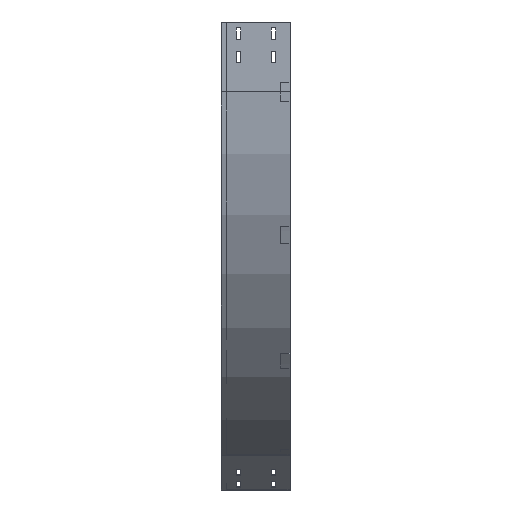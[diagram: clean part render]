
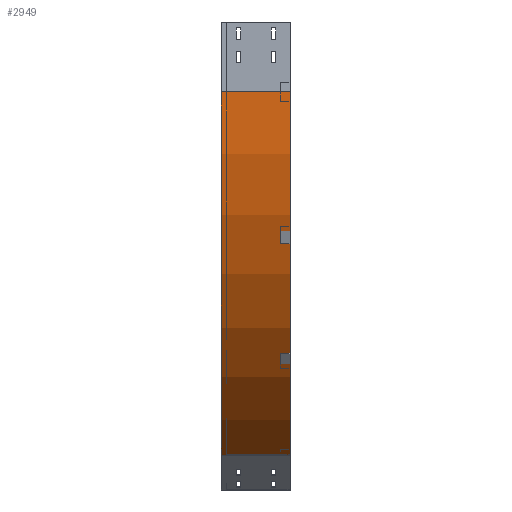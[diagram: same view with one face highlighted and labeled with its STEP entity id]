
A CAD part, left-side view. The second image highlights one B-rep face of the part: STEP entity #2949.
In plain terms, the highlighted cylindrical face has radius 900 mm (diameter 1800 mm), a partial arc.
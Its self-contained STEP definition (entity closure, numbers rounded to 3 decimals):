
#83 = VERTEX_POINT ( 'NONE', #3060 ) ;
#157 = CIRCLE ( 'NONE', #2994, 900. ) ;
#167 = EDGE_CURVE ( 'NONE', #2838, #83, #1378, .T. ) ;
#358 = FACE_OUTER_BOUND ( 'NONE', #584, .T. ) ;
#584 = EDGE_LOOP ( 'NONE', ( #3277, #2231, #1698, #2162 ) ) ;
#649 = CYLINDRICAL_SURFACE ( 'NONE', #1088, 900. ) ;
#704 = CARTESIAN_POINT ( 'NONE',  ( 0., 150., -150. ) ) ;
#1087 = DIRECTION ( 'NONE',  ( 0., -1., 0. ) ) ;
#1088 = AXIS2_PLACEMENT_3D ( 'NONE', #2709, #1240, #3616 ) ;
#1151 = AXIS2_PLACEMENT_3D ( 'NONE', #1673, #1381, #2226 ) ;
#1152 = EDGE_CURVE ( 'NONE', #2594, #1293, #1590, .T. ) ;
#1229 = EDGE_CURVE ( 'NONE', #83, #1293, #3456, .T. ) ;
#1240 = DIRECTION ( 'NONE',  ( 0., -1., 0. ) ) ;
#1293 = VERTEX_POINT ( 'NONE', #2603 ) ;
#1378 = LINE ( 'NONE', #2599, #1835 ) ;
#1381 = DIRECTION ( 'NONE',  ( 0., -1., 0. ) ) ;
#1590 = LINE ( 'NONE', #2182, #2818 ) ;
#1673 = CARTESIAN_POINT ( 'NONE',  ( 900., 0., -150. ) ) ;
#1698 = ORIENTED_EDGE ( 'NONE', *, *, #2645, .T. ) ;
#1835 = VECTOR ( 'NONE', #1087, 1000. ) ;
#2162 = ORIENTED_EDGE ( 'NONE', *, *, #1152, .T. ) ;
#2182 = CARTESIAN_POINT ( 'NONE',  ( 450., 0., -929.423 ) ) ;
#2226 = DIRECTION ( 'NONE',  ( -1., 0., 0. ) ) ;
#2231 = ORIENTED_EDGE ( 'NONE', *, *, #167, .F. ) ;
#2412 = DIRECTION ( 'NONE',  ( 0., -1., 0. ) ) ;
#2594 = VERTEX_POINT ( 'NONE', #3301 ) ;
#2599 = CARTESIAN_POINT ( 'NONE',  ( 0., 0., -150. ) ) ;
#2603 = CARTESIAN_POINT ( 'NONE',  ( 450., 0., -929.423 ) ) ;
#2645 = EDGE_CURVE ( 'NONE', #2838, #2594, #157, .T. ) ;
#2704 = CARTESIAN_POINT ( 'NONE',  ( 900., 150., -150. ) ) ;
#2709 = CARTESIAN_POINT ( 'NONE',  ( 900., 0., -150. ) ) ;
#2818 = VECTOR ( 'NONE', #3385, 1000. ) ;
#2838 = VERTEX_POINT ( 'NONE', #704 ) ;
#2949 = ADVANCED_FACE ( 'NONE', ( #358 ), #649, .T. ) ;
#2994 = AXIS2_PLACEMENT_3D ( 'NONE', #2704, #2412, #3021 ) ;
#3021 = DIRECTION ( 'NONE',  ( -1., 0., 0. ) ) ;
#3060 = CARTESIAN_POINT ( 'NONE',  ( 0., 0., -150. ) ) ;
#3277 = ORIENTED_EDGE ( 'NONE', *, *, #1229, .F. ) ;
#3301 = CARTESIAN_POINT ( 'NONE',  ( 450., 150., -929.423 ) ) ;
#3385 = DIRECTION ( 'NONE',  ( 0., -1., 0. ) ) ;
#3456 = CIRCLE ( 'NONE', #1151, 900. ) ;
#3616 = DIRECTION ( 'NONE',  ( 0., 0., -1. ) ) ;
